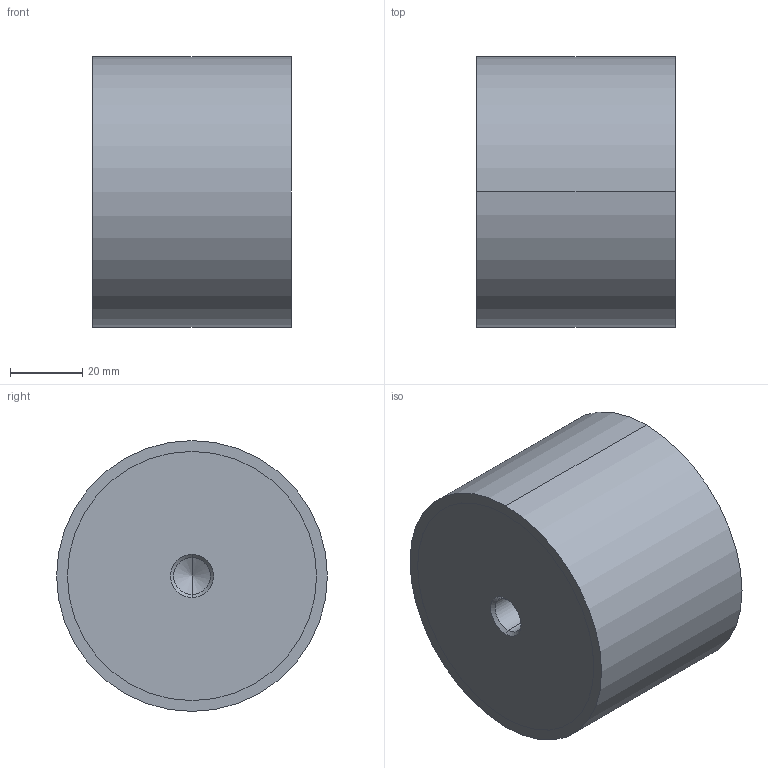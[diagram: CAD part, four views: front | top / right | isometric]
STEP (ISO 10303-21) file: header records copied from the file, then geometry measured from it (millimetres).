
FILE_DESCRIPTION (( 'STEP AP214' ), '1' );
FILE_NAME ('351-75-55-M12-EE-55.step', '2025-07-23T09:48:54', ( '' ), ( '' ), 'SwSTEP 2.0', 'SolidWorks 2022', '' );
FILE_SCHEMA (( 'AUTOMOTIVE_DESIGN' ));
Length unit declared in the file: millimetre
Products named in the file (1): 351-75-55-M12-EE-55
Bounding box: 55 x 75 x 75 mm (x, y, z)
Volume: 240522.5 mm3; surface area: 22655.7 mm2
Topology: 1 solids, 1 shells, 28 faces, 58 edges, 34 vertices
Faces by surface type: cylinder 14, cone 8, plane 6
Entity records: 844 total; most frequent: DIRECTION 144, CARTESIAN_POINT 117, ORIENTED_EDGE 108, AXIS2_PLACEMENT_3D 61, EDGE_CURVE 54, EDGE_LOOP 34, VERTEX_POINT 34, CIRCLE 32
